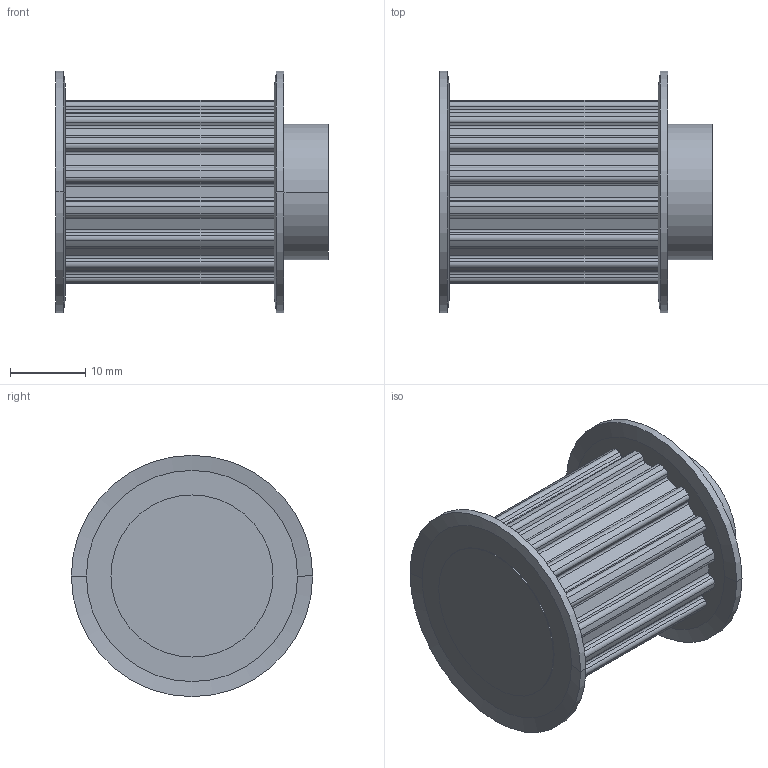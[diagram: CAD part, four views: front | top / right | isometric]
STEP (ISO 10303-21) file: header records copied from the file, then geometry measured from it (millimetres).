
FILE_DESCRIPTION( ( '' ), '1' );
FILE_NAME( 'C:/Users/Stangenbergd/Documents/CAD_Step/1/16241600.stp', '2021-10-19T08:45:32', ( '' ), ( '' ), ' ', ' ', ' ' );
FILE_SCHEMA( ( 'CONFIG_CONTROL_DESIGN' ) );
Length unit declared in the file: millimetre
Products named in the file (1): 1
Bounding box: 36.13 x 32 x 32 mm (x, y, z)
Volume: 15018.4 mm3; surface area: 5593.6 mm2
Topology: 1 solids, 1 shells, 153 faces, 430 edges, 284 vertices
Faces by surface type: cylinder 90, plane 55, cone 8
Entity records: 5052 total; most frequent: DIRECTION 926, CARTESIAN_POINT 868, ORIENTED_EDGE 860, EDGE_CURVE 430, AXIS2_PLACEMENT_3D 342, VERTEX_POINT 284, LINE 242, VECTOR 242
